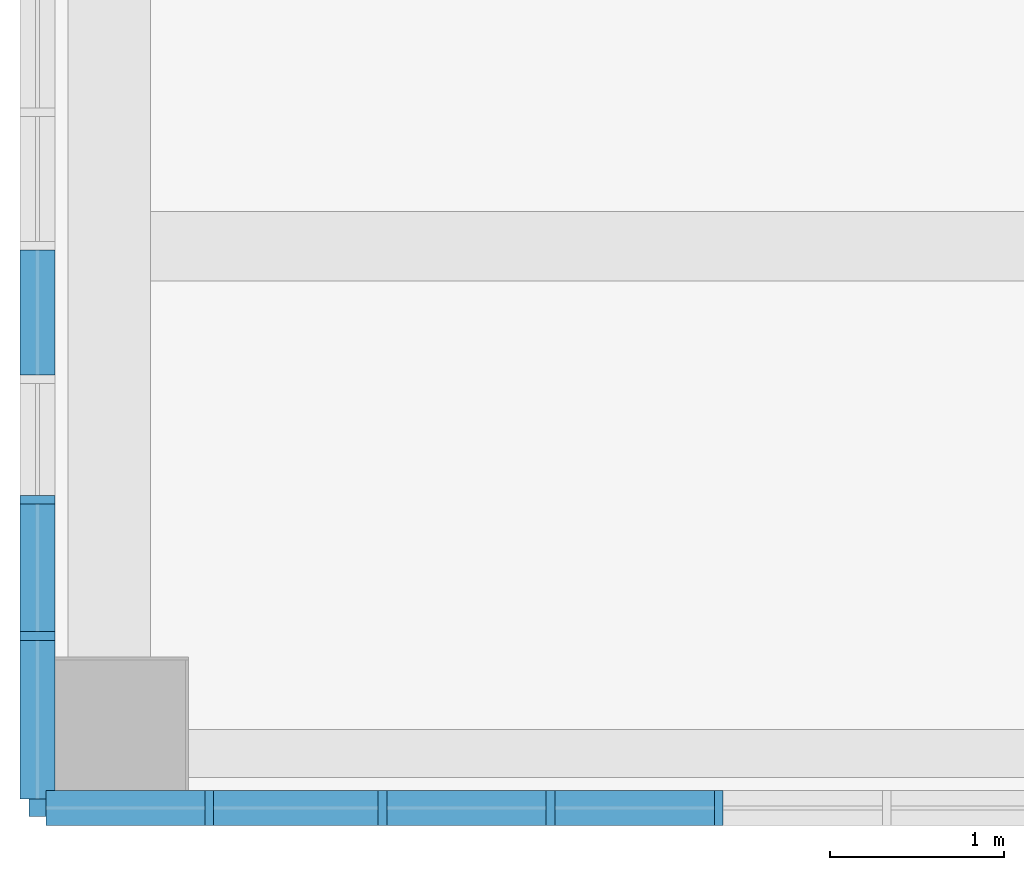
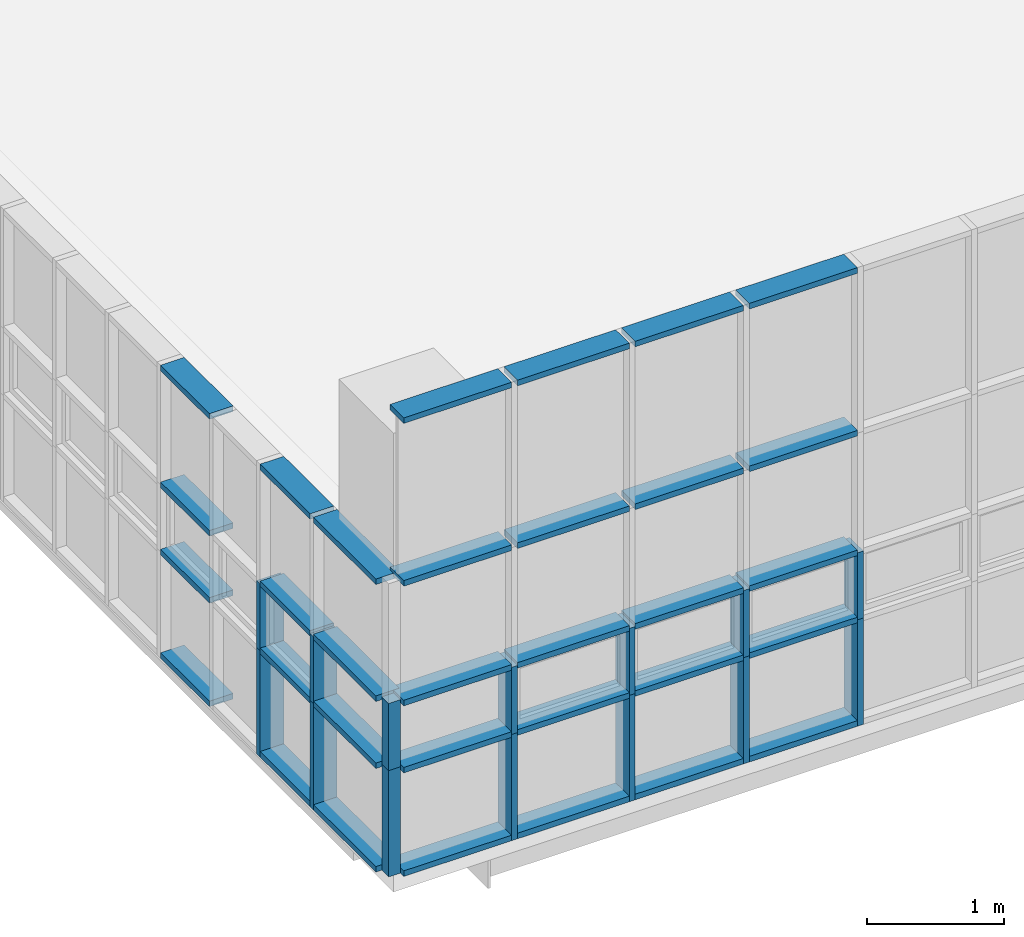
# One storey, part 11 of 76: 46 members, 2 elements without a shape of their own.
"""IFC2X3 building model written with IfcOpenShell, lengths in millimetres."""

from ifc_helpers import new_model, entity, si_unit, converted_unit, derived_unit, direction, frame, origin, origin_2d_with_axis, place, context, subcontext, project, spatial, rectangle, extrude, source, transform, mapped, material, type_object, type_shapes, element, aggregate, save


model = new_model("IFC2X3")

# Units and contexts
model_context = context("Model", 3, precision=0.01, world=origin(), true_north=direction((6.123031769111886e-17, 1.0)))
body_context = subcontext(model_context, "Body", "Model", "MODEL_VIEW")
ifc_project = project(units=[si_unit("LENGTHUNIT", "METRE", prefix="MILLI"), si_unit("AREAUNIT", "SQUARE_METRE"), si_unit("VOLUMEUNIT", "CUBIC_METRE"), converted_unit("PLANEANGLEUNIT", "DEGREE", entity("IfcRatioMeasure", 0.017453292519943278), si_unit("PLANEANGLEUNIT", "RADIAN"), dimensions=[0, 0, 0, 0, 0, 0, 0]), si_unit("MASSUNIT", "GRAM", prefix="KILO"), derived_unit("MASSDENSITYUNIT", [(si_unit("MASSUNIT", "GRAM", prefix="KILO"), 1), (si_unit("LENGTHUNIT", "METRE"), -3)]), derived_unit("MOMENTOFINERTIAUNIT", [(si_unit("LENGTHUNIT", "METRE"), 4)]), si_unit("TIMEUNIT", "SECOND"), si_unit("FREQUENCYUNIT", "HERTZ"), si_unit("THERMODYNAMICTEMPERATUREUNIT", "DEGREE_CELSIUS"), derived_unit("THERMALTRANSMITTANCEUNIT", [(si_unit("MASSUNIT", "GRAM", prefix="KILO"), 1), (si_unit("THERMODYNAMICTEMPERATUREUNIT", "KELVIN"), -1), (si_unit("TIMEUNIT", "SECOND"), -3)]), derived_unit("VOLUMETRICFLOWRATEUNIT", [(si_unit("LENGTHUNIT", "METRE"), 3), (si_unit("TIMEUNIT", "SECOND"), -1)]), derived_unit("MASSFLOWRATEUNIT", [(si_unit("MASSUNIT", "GRAM", prefix="KILO"), 1), (si_unit("TIMEUNIT", "SECOND"), -1)]), derived_unit("ROTATIONALFREQUENCYUNIT", [(si_unit("TIMEUNIT", "SECOND"), -1)]), si_unit("ELECTRICCURRENTUNIT", "AMPERE"), si_unit("ELECTRICVOLTAGEUNIT", "VOLT"), si_unit("POWERUNIT", "WATT"), si_unit("FORCEUNIT", "NEWTON", prefix="KILO"), si_unit("ILLUMINANCEUNIT", "LUX"), si_unit("LUMINOUSFLUXUNIT", "LUMEN"), si_unit("LUMINOUSINTENSITYUNIT", "CANDELA"), derived_unit("USERDEFINED", [(si_unit("MASSUNIT", "GRAM", prefix="KILO"), -1), (si_unit("LENGTHUNIT", "METRE"), -2), (si_unit("TIMEUNIT", "SECOND"), 3), (si_unit("LUMINOUSFLUXUNIT", "LUMEN"), 1)]), derived_unit("SOUNDPOWERUNIT", [(si_unit("MASSUNIT", "GRAM", prefix="KILO"), 1), (si_unit("LENGTHUNIT", "METRE"), 2), (si_unit("TIMEUNIT", "SECOND"), -3)]), derived_unit("SOUNDPRESSUREUNIT", [(si_unit("MASSUNIT", "GRAM", prefix="KILO"), 1), (si_unit("LENGTHUNIT", "METRE"), -1), (si_unit("TIMEUNIT", "SECOND"), -2)]), derived_unit("LINEARVELOCITYUNIT", [(si_unit("LENGTHUNIT", "METRE"), 1), (si_unit("TIMEUNIT", "SECOND"), -1)]), si_unit("PRESSUREUNIT", "PASCAL"), derived_unit("USERDEFINED", [(si_unit("LENGTHUNIT", "METRE"), -2), (si_unit("MASSUNIT", "GRAM", prefix="KILO"), 1), (si_unit("TIMEUNIT", "SECOND"), -2)]), derived_unit("LINEARFORCEUNIT", [(si_unit("MASSUNIT", "GRAM", prefix="KILO"), 1), (si_unit("LENGTHUNIT", "METRE"), 1), (si_unit("TIMEUNIT", "SECOND"), -2), (si_unit("LENGTHUNIT", "METRE"), -1)]), derived_unit("PLANARFORCEUNIT", [(si_unit("MASSUNIT", "GRAM", prefix="KILO"), 1), (si_unit("LENGTHUNIT", "METRE"), 1), (si_unit("TIMEUNIT", "SECOND"), -2), (si_unit("LENGTHUNIT", "METRE"), -2)])], contexts=[model_context])

# Site, building, storey
site_placement = place(None, frame((-14167.972527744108, -657.2125860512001, 0.0)))
site = spatial("IfcSite", under=ifc_project, at=site_placement, Name="Default", CompositionType="ELEMENT")
building_placement = place(site_placement, origin())
building = spatial("IfcBuilding", under=site, at=building_placement, Name="Sample Building", CompositionType="ELEMENT")
storey_placement = place(building_placement, frame((0.0, 0.0, 9300.0)))
storey = spatial("IfcBuildingStorey", under=building, at=storey_placement, Name="지상 3층", CompositionType="ELEMENT", Elevation=9300.000000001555)

# Curtain wall, members
curtain_wall_type = type_object("IfcCurtainWallType", Name="커튼월:CW112-스테인리스 스틸 커튼월", PredefinedType="NOTDEFINED")
curtain_wall_1_placement = place(storey_placement, frame((0.0, 0.0, -9300.0)))
curtain_wall_1 = element("IfcCurtainWall", 1, at=curtain_wall_1_placement, inside=storey, type_object=curtain_wall_type, Name="커튼월:CW112-스테인리스 스틸 커튼월", ObjectType="커튼월:CW112-스테인리스 스틸 커튼월")
ifc_material = material(Name="<Unnamed>")
member_type_1 = type_object("IfcMemberType", Name="직사각형 멀리언:CW200-직사각형 멀리언 50x200mm", PredefinedType="MULLION", material=ifc_material)
shared_shape_1 = source(origin(), body_context, "Body", "SweptSolid", [
    extrude(rectangle(XDim=200.0, YDim=50.0, at=origin_2d_with_axis()), frame((0.0, 0.0, -600.0), z_axis=(0.0, 0.0, 1.0), x_axis=(0.0, -1.0, 0.0)), (0.0, 0.0, 1.0), 600.0),
])
type_shapes(member_type_1, [shared_shape_1])
member_1_placement = place(curtain_wall_1_placement, frame((14018.587904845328, 2277.817707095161, 10330.0), z_axis=(0.0, 0.0, -1.0), x_axis=(0.0, -1.0, 0.0)))
member_1 = element("IfcMember", 2, at=member_1_placement, type_object=member_type_1, material=ifc_material, Name="직사각형 멀리언:CW200-직사각형 멀리언 50x200mm", ObjectType="직사각형 멀리언:CW200-직사각형 멀리언 50x200mm", context=body_context, shape_type="MappedRepresentation", body=[
    mapped(shared_shape_1, transform((0.0, 0.0, 0.0), scale=1.0)),
])
member_2_placement = place(curtain_wall_1_placement, frame((14018.587904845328, 1494.8177070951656, 10330.0), z_axis=(0.0, 0.0, -1.0), x_axis=(0.0, -1.0, 0.0)))
member_2 = element("IfcMember", 3, at=member_2_placement, type_object=member_type_1, material=ifc_material, Name="직사각형 멀리언:CW200-직사각형 멀리언 50x200mm", ObjectType="직사각형 멀리언:CW200-직사각형 멀리언 50x200mm", context=body_context, shape_type="MappedRepresentation", body=[
    mapped(shared_shape_1, transform((0.0, 0.0, 0.0), scale=1.0)),
])

curtain_wall_2_placement = place(storey_placement, frame((0.0, 0.0, -9300.0)))
curtain_wall_2 = element("IfcCurtainWall", 4, at=curtain_wall_2_placement, inside=storey, type_object=curtain_wall_type, Name="커튼월:CW112-스테인리스 스틸 커튼월", ObjectType="커튼월:CW112-스테인리스 스틸 커튼월")
member_3_placement = place(curtain_wall_2_placement, frame((15005.156070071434, 507.21229514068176, 10330.0), z_axis=(0.0, 0.0, -1.0), x_axis=(1.0, 0.0, 0.0)))
member_3 = element("IfcMember", 5, at=member_3_placement, type_object=member_type_1, material=ifc_material, Name="직사각형 멀리언:CW200-직사각형 멀리언 50x200mm", ObjectType="직사각형 멀리언:CW200-직사각형 멀리언 50x200mm", context=body_context, shape_type="MappedRepresentation", body=[
    mapped(shared_shape_1, transform((0.0, 0.0, 0.0), scale=1.0)),
])
member_4_placement = place(curtain_wall_2_placement, frame((16000.156070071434, 507.2122951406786, 10330.0), z_axis=(0.0, 0.0, -1.0), x_axis=(1.0, 0.0, 0.0)))
member_4 = element("IfcMember", 6, at=member_4_placement, type_object=member_type_1, material=ifc_material, Name="직사각형 멀리언:CW200-직사각형 멀리언 50x200mm", ObjectType="직사각형 멀리언:CW200-직사각형 멀리언 50x200mm", context=body_context, shape_type="MappedRepresentation", body=[
    mapped(shared_shape_1, transform((0.0, 0.0, 0.0), scale=1.0)),
])
member_5_placement = place(curtain_wall_2_placement, frame((16965.156070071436, 507.21229514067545, 10330.0), z_axis=(0.0, 0.0, -1.0), x_axis=(1.0, 0.0, 0.0)))
member_5 = element("IfcMember", 7, at=member_5_placement, type_object=member_type_1, material=ifc_material, Name="직사각형 멀리언:CW200-직사각형 멀리언 50x200mm", ObjectType="직사각형 멀리언:CW200-직사각형 멀리언 50x200mm", context=body_context, shape_type="MappedRepresentation", body=[
    mapped(shared_shape_1, transform((0.0, 0.0, 0.0), scale=1.0)),
])
member_6_placement = place(curtain_wall_2_placement, frame((17930.156070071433, 507.2122951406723, 10330.0), z_axis=(0.0, 0.0, -1.0), x_axis=(1.0, 0.0, 0.0)))
member_6 = element("IfcMember", 8, at=member_6_placement, type_object=member_type_1, material=ifc_material, Name="직사각형 멀리언:CW200-직사각형 멀리언 50x200mm", ObjectType="직사각형 멀리언:CW200-직사각형 멀리언 50x200mm", context=body_context, shape_type="MappedRepresentation", body=[
    mapped(shared_shape_1, transform((0.0, 0.0, 0.0), scale=1.0)),
])

# Member
member_type_2 = type_object("IfcMemberType", Name="직사각형 멀리언:CW200-직사각형 멀리언 50x200mm", PredefinedType="MULLION", material=ifc_material)
shared_shape_2 = source(origin(), body_context, "Body", "SweptSolid", [
    extrude(rectangle(XDim=200.0, YDim=50.0, at=origin_2d_with_axis()), frame((-25.0, 0.0, -912.5000000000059), z_axis=(0.0, 0.0, 1.0), x_axis=(0.0, -1.0, 0.0)), (0.0, 0.0, 1.0), 912.5000000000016),
])
type_shapes(member_type_2, [shared_shape_2])
member_7_placement = place(curtain_wall_1_placement, frame((14018.587904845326, 557.4731922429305, 12000.0), z_axis=(0.0, -1.0, 0.0), x_axis=(0.0, 0.0, 1.0)))
member_7 = element("IfcMember", 9, at=member_7_placement, type_object=member_type_2, material=ifc_material, Name="직사각형 멀리언:CW200-직사각형 멀리언 50x200mm", ObjectType="직사각형 멀리언:CW200-직사각형 멀리언 50x200mm", context=body_context, shape_type="MappedRepresentation", body=[
    mapped(shared_shape_2, transform((0.0, 0.0, 0.0), scale=1.0)),
])

member_type_3 = type_object("IfcMemberType", Name="직사각형 멀리언:CW200-직사각형 멀리언 50x200mm", PredefinedType="MULLION", material=ifc_material)
shared_shape_3 = source(origin(), body_context, "Body", "SweptSolid", [
    extrude(rectangle(XDim=200.0, YDim=50.0, at=origin_2d_with_axis()), frame((-25.0, 0.0, -912.5000000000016), z_axis=(0.0, 0.0, 1.0), x_axis=(0.0, -1.0, 0.0)), (0.0, 0.0, 1.0), 912.5000000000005),
])
type_shapes(member_type_3, [shared_shape_3])
member_8_placement = place(curtain_wall_1_placement, frame((14018.587904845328, 1469.8177070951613, 9380.0), z_axis=(0.0, 1.0, 0.0), x_axis=(0.0, 0.0, -1.0)))
member_8 = element("IfcMember", 10, at=member_8_placement, type_object=member_type_3, material=ifc_material, Name="직사각형 멀리언:CW200-직사각형 멀리언 50x200mm", ObjectType="직사각형 멀리언:CW200-직사각형 멀리언 50x200mm", context=body_context, shape_type="MappedRepresentation", body=[
    mapped(shared_shape_3, transform((0.0, 0.0, 0.0), scale=1.0)),
])

member_type_4 = type_object("IfcMemberType", Name="직사각형 멀리언:CW200-직사각형 멀리언 50x200mm", PredefinedType="MULLION", material=ifc_material)
shared_shape_4 = source(origin(), body_context, "Body", "SweptSolid", [
    extrude(rectangle(XDim=200.0, YDim=50.0, at=origin_2d_with_axis()), frame((0.0, 0.0, -912.4999999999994), z_axis=(0.0, 0.0, 1.0), x_axis=(0.0, -1.0, 0.0)), (0.0, 0.0, 1.0), 912.5000000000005),
])
type_shapes(member_type_4, [shared_shape_4])
member_9_placement = place(curtain_wall_1_placement, frame((14018.587904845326, 557.4731922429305, 10330.0), z_axis=(0.0, -1.0, 0.0), x_axis=(0.0, 0.0, 1.0)))
member_9 = element("IfcMember", 11, at=member_9_placement, type_object=member_type_4, material=ifc_material, Name="직사각형 멀리언:CW200-직사각형 멀리언 50x200mm", ObjectType="직사각형 멀리언:CW200-직사각형 멀리언 50x200mm", context=body_context, shape_type="MappedRepresentation", body=[
    mapped(shared_shape_4, transform((0.0, 0.0, 0.0), scale=1.0)),
])

member_10_placement = place(curtain_wall_1_placement, frame((14018.587904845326, 557.4731922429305, 10930.0), z_axis=(0.0, -1.0, 0.0), x_axis=(0.0, 0.0, 1.0)))
member_10 = element("IfcMember", 12, at=member_10_placement, type_object=member_type_4, material=ifc_material, Name="직사각형 멀리언:CW200-직사각형 멀리언 50x200mm", ObjectType="직사각형 멀리언:CW200-직사각형 멀리언 50x200mm", context=body_context, shape_type="MappedRepresentation", body=[
    mapped(shared_shape_4, transform((0.0, 0.0, 0.0), scale=1.0)),
])

member_type_5 = type_object("IfcMemberType", Name="직사각형 멀리언:CW200-직사각형 멀리언 100 x 100mm", PredefinedType="MULLION", material=ifc_material)
shared_shape_5 = source(origin(), body_context, "Body", "SweptSolid", [
    extrude(rectangle(XDim=100.0, YDim=100.0, at=origin_2d_with_axis()), frame((-50.0, 0.0, -950.0), z_axis=(0.0, 0.0, 1.0), x_axis=(0.0, -1.0, 0.0)), (0.0, 0.0, 1.0), 950.0000000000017),
])
type_shapes(member_type_5, [shared_shape_5])
member_11_placement = place(curtain_wall_1_placement, frame((14018.587904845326, 457.4731922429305, 9380.0), z_axis=(0.0, 0.0, -1.0), x_axis=(0.0, -1.0, 0.0)))
member_11 = element("IfcMember", 13, at=member_11_placement, type_object=member_type_5, material=ifc_material, Name="직사각형 멀리언:CW200-직사각형 멀리언 100 x 100mm", ObjectType="직사각형 멀리언:CW200-직사각형 멀리언 100 x 100mm", context=body_context, shape_type="MappedRepresentation", body=[
    mapped(shared_shape_5, transform((0.0, 0.0, 0.0), scale=1.0)),
])

member_type_6 = type_object("IfcMemberType", Name="직사각형 멀리언:CW200-직사각형 멀리언 100 x 100mm", PredefinedType="MULLION", material=ifc_material)
shared_shape_6 = source(origin(), body_context, "Body", "SweptSolid", [
    extrude(rectangle(XDim=100.0, YDim=100.0, at=origin_2d_with_axis()), frame((-50.0, 0.0, -600.0), z_axis=(0.0, 0.0, 1.0), x_axis=(0.0, -1.0, 0.0)), (0.0, 0.0, 1.0), 600.0000000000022),
])
type_shapes(member_type_6, [shared_shape_6])
member_12_placement = place(curtain_wall_1_placement, frame((14018.587904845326, 457.4731922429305, 10330.0), z_axis=(0.0, 0.0, -1.0), x_axis=(0.0, -1.0, 0.0)))
member_12 = element("IfcMember", 14, at=member_12_placement, type_object=member_type_6, material=ifc_material, Name="직사각형 멀리언:CW200-직사각형 멀리언 100 x 100mm", ObjectType="직사각형 멀리언:CW200-직사각형 멀리언 100 x 100mm", context=body_context, shape_type="MappedRepresentation", body=[
    mapped(shared_shape_6, transform((0.0, 0.0, 0.0), scale=1.0)),
])

member_type_7 = type_object("IfcMemberType", Name="직사각형 멀리언:CW200-직사각형 멀리언 50x200mm", PredefinedType="MULLION", material=ifc_material)
shared_shape_7 = source(origin(), body_context, "Body", "SweptSolid", [
    extrude(rectangle(XDim=200.0, YDim=50.0, at=origin_2d_with_axis()), frame((0.0, 0.0, -950.0), z_axis=(0.0, 0.0, 1.0), x_axis=(0.0, -1.0, 0.0)), (0.0, 0.0, 1.0), 949.9999999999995),
])
type_shapes(member_type_7, [shared_shape_7])
member_13_placement = place(curtain_wall_1_placement, frame((14018.587904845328, 2277.817707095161, 9380.0), z_axis=(0.0, 0.0, -1.0), x_axis=(0.0, -1.0, 0.0)))
member_13 = element("IfcMember", 15, at=member_13_placement, type_object=member_type_7, material=ifc_material, Name="직사각형 멀리언:CW200-직사각형 멀리언 50x200mm", ObjectType="직사각형 멀리언:CW200-직사각형 멀리언 50x200mm", context=body_context, shape_type="MappedRepresentation", body=[
    mapped(shared_shape_7, transform((0.0, 0.0, 0.0), scale=1.0)),
])

member_14_placement = place(curtain_wall_1_placement, frame((14018.587904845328, 1494.8177070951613, 9380.0), z_axis=(0.0, 0.0, -1.0), x_axis=(0.0, -1.0, 0.0)))
member_14 = element("IfcMember", 16, at=member_14_placement, type_object=member_type_7, material=ifc_material, Name="직사각형 멀리언:CW200-직사각형 멀리언 50x200mm", ObjectType="직사각형 멀리언:CW200-직사각형 멀리언 50x200mm", context=body_context, shape_type="MappedRepresentation", body=[
    mapped(shared_shape_7, transform((0.0, 0.0, 0.0), scale=1.0)),
])

member_15_placement = place(curtain_wall_2_placement, frame((15005.156070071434, 507.21229514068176, 9380.0), z_axis=(0.0, 0.0, -1.0), x_axis=(1.0, 0.0, 0.0)))
member_15 = element("IfcMember", 17, at=member_15_placement, type_object=member_type_7, material=ifc_material, Name="직사각형 멀리언:CW200-직사각형 멀리언 50x200mm", ObjectType="직사각형 멀리언:CW200-직사각형 멀리언 50x200mm", context=body_context, shape_type="MappedRepresentation", body=[
    mapped(shared_shape_7, transform((0.0, 0.0, 0.0), scale=1.0)),
])

member_16_placement = place(curtain_wall_2_placement, frame((16000.156070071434, 507.2122951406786, 9380.0), z_axis=(0.0, 0.0, -1.0), x_axis=(1.0, 0.0, 0.0)))
member_16 = element("IfcMember", 18, at=member_16_placement, type_object=member_type_7, material=ifc_material, Name="직사각형 멀리언:CW200-직사각형 멀리언 50x200mm", ObjectType="직사각형 멀리언:CW200-직사각형 멀리언 50x200mm", context=body_context, shape_type="MappedRepresentation", body=[
    mapped(shared_shape_7, transform((0.0, 0.0, 0.0), scale=1.0)),
])

member_17_placement = place(curtain_wall_2_placement, frame((16965.156070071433, 507.21229514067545, 9380.0), z_axis=(0.0, 0.0, -1.0), x_axis=(1.0, 0.0, 0.0)))
member_17 = element("IfcMember", 19, at=member_17_placement, type_object=member_type_7, material=ifc_material, Name="직사각형 멀리언:CW200-직사각형 멀리언 50x200mm", ObjectType="직사각형 멀리언:CW200-직사각형 멀리언 50x200mm", context=body_context, shape_type="MappedRepresentation", body=[
    mapped(shared_shape_7, transform((0.0, 0.0, 0.0), scale=1.0)),
])

member_18_placement = place(curtain_wall_2_placement, frame((17930.156070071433, 507.2122951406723, 9380.0), z_axis=(0.0, 0.0, -1.0), x_axis=(1.0, 0.0, 0.0)))
member_18 = element("IfcMember", 20, at=member_18_placement, type_object=member_type_7, material=ifc_material, Name="직사각형 멀리언:CW200-직사각형 멀리언 50x200mm", ObjectType="직사각형 멀리언:CW200-직사각형 멀리언 50x200mm", context=body_context, shape_type="MappedRepresentation", body=[
    mapped(shared_shape_7, transform((0.0, 0.0, 0.0), scale=1.0)),
])

member_type_8 = type_object("IfcMemberType", Name="직사각형 멀리언:CW200-직사각형 멀리언 50x200mm", PredefinedType="MULLION", material=ifc_material)
shared_shape_8 = source(origin(), body_context, "Body", "SweptSolid", [
    extrude(rectangle(XDim=200.0, YDim=50.0, at=origin_2d_with_axis()), frame((-25.0, 0.0, -716.0), z_axis=(0.0, 0.0, 1.0), x_axis=(0.0, -1.0, 0.0)), (0.0, 0.0, 1.0), 715.9999999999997),
])
type_shapes(member_type_8, [shared_shape_8])
member_19_placement = place(curtain_wall_1_placement, frame((14018.587904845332, 3710.8177070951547, 9380.0), z_axis=(0.0, 1.0, 0.0), x_axis=(0.0, 0.0, -1.0)))
member_19 = element("IfcMember", 21, at=member_19_placement, type_object=member_type_8, material=ifc_material, Name="직사각형 멀리언:CW200-직사각형 멀리언 50x200mm", ObjectType="직사각형 멀리언:CW200-직사각형 멀리언 50x200mm", context=body_context, shape_type="MappedRepresentation", body=[
    mapped(shared_shape_8, transform((0.0, 0.0, 0.0), scale=1.0)),
])

member_type_9 = type_object("IfcMemberType", Name="직사각형 멀리언:CW200-직사각형 멀리언 50x200mm", PredefinedType="MULLION", material=ifc_material)
shared_shape_9 = source(origin(), body_context, "Body", "SweptSolid", [
    extrude(rectangle(XDim=200.0, YDim=50.0, at=origin_2d_with_axis()), frame((0.0, 0.0, -716.0), z_axis=(0.0, 0.0, 1.0), x_axis=(0.0, -1.0, 0.0)), (0.0, 0.0, 1.0), 715.9999999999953),
])
type_shapes(member_type_9, [shared_shape_9])
member_20_placement = place(curtain_wall_1_placement, frame((14018.587904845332, 2994.817707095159, 10330.0), z_axis=(0.0, -1.0, 0.0), x_axis=(0.0, 0.0, 1.0)))
member_20 = element("IfcMember", 22, at=member_20_placement, type_object=member_type_9, material=ifc_material, Name="직사각형 멀리언:CW200-직사각형 멀리언 50x200mm", ObjectType="직사각형 멀리언:CW200-직사각형 멀리언 50x200mm", context=body_context, shape_type="MappedRepresentation", body=[
    mapped(shared_shape_9, transform((0.0, 0.0, 0.0), scale=1.0)),
])

member_21_placement = place(curtain_wall_1_placement, frame((14018.587904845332, 2994.817707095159, 10930.0), z_axis=(0.0, -1.0, 0.0), x_axis=(0.0, 0.0, 1.0)))
member_21 = element("IfcMember", 23, at=member_21_placement, type_object=member_type_9, material=ifc_material, Name="직사각형 멀리언:CW200-직사각형 멀리언 50x200mm", ObjectType="직사각형 멀리언:CW200-직사각형 멀리언 50x200mm", context=body_context, shape_type="MappedRepresentation", body=[
    mapped(shared_shape_9, transform((0.0, 0.0, 0.0), scale=1.0)),
])

member_type_10 = type_object("IfcMemberType", Name="직사각형 멀리언:CW200-직사각형 멀리언 50x200mm", PredefinedType="MULLION", material=ifc_material)
shared_shape_10 = source(origin(), body_context, "Body", "SweptSolid", [
    extrude(rectangle(XDim=200.0, YDim=50.0, at=origin_2d_with_axis()), frame((-25.0, 0.0, -716.0), z_axis=(0.0, 0.0, 1.0), x_axis=(0.0, -1.0, 0.0)), (0.0, 0.0, 1.0), 715.9999999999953),
])
type_shapes(member_type_10, [shared_shape_10])
member_22_placement = place(curtain_wall_1_placement, frame((14018.587904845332, 2994.817707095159, 12000.0), z_axis=(0.0, -1.0, 0.0), x_axis=(0.0, 0.0, 1.0)))
member_22 = element("IfcMember", 24, at=member_22_placement, type_object=member_type_10, material=ifc_material, Name="직사각형 멀리언:CW200-직사각형 멀리언 50x200mm", ObjectType="직사각형 멀리언:CW200-직사각형 멀리언 50x200mm", context=body_context, shape_type="MappedRepresentation", body=[
    mapped(shared_shape_10, transform((0.0, 0.0, 0.0), scale=1.0)),
])

member_type_11 = type_object("IfcMemberType", Name="직사각형 멀리언:CW200-직사각형 멀리언 50x200mm", PredefinedType="MULLION", material=ifc_material)
shared_shape_11 = source(origin(), body_context, "Body", "SweptSolid", [
    extrude(rectangle(XDim=200.0, YDim=50.0, at=origin_2d_with_axis()), frame((-25.0, 0.0, -733.0), z_axis=(0.0, 0.0, 1.0), x_axis=(0.0, -1.0, 0.0)), (0.0, 0.0, 1.0), 732.9999999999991),
])
type_shapes(member_type_11, [shared_shape_11])
member_23_placement = place(curtain_wall_1_placement, frame((14018.587904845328, 2252.817707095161, 9380.0), z_axis=(0.0, 1.0, 0.0), x_axis=(0.0, 0.0, -1.0)))
member_23 = element("IfcMember", 25, at=member_23_placement, type_object=member_type_11, material=ifc_material, Name="직사각형 멀리언:CW200-직사각형 멀리언 50x200mm", ObjectType="직사각형 멀리언:CW200-직사각형 멀리언 50x200mm", context=body_context, shape_type="MappedRepresentation", body=[
    mapped(shared_shape_11, transform((0.0, 0.0, 0.0), scale=1.0)),
])

member_type_12 = type_object("IfcMemberType", Name="직사각형 멀리언:CW200-직사각형 멀리언 50x200mm", PredefinedType="MULLION", material=ifc_material)
shared_shape_12 = source(origin(), body_context, "Body", "SweptSolid", [
    extrude(rectangle(XDim=200.0, YDim=50.0, at=origin_2d_with_axis()), frame((0.0, 0.0, -733.0), z_axis=(0.0, 0.0, 1.0), x_axis=(0.0, -1.0, 0.0)), (0.0, 0.0, 1.0), 732.9999999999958),
])
type_shapes(member_type_12, [shared_shape_12])
member_24_placement = place(curtain_wall_1_placement, frame((14018.587904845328, 1519.8177070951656, 10330.0), z_axis=(0.0, -1.0, 0.0), x_axis=(0.0, 0.0, 1.0)))
member_24 = element("IfcMember", 26, at=member_24_placement, type_object=member_type_12, material=ifc_material, Name="직사각형 멀리언:CW200-직사각형 멀리언 50x200mm", ObjectType="직사각형 멀리언:CW200-직사각형 멀리언 50x200mm", context=body_context, shape_type="MappedRepresentation", body=[
    mapped(shared_shape_12, transform((0.0, 0.0, 0.0), scale=1.0)),
])

member_25_placement = place(curtain_wall_1_placement, frame((14018.587904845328, 1519.8177070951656, 10930.0), z_axis=(0.0, -1.0, 0.0), x_axis=(0.0, 0.0, 1.0)))
member_25 = element("IfcMember", 27, at=member_25_placement, type_object=member_type_12, material=ifc_material, Name="직사각형 멀리언:CW200-직사각형 멀리언 50x200mm", ObjectType="직사각형 멀리언:CW200-직사각형 멀리언 50x200mm", context=body_context, shape_type="MappedRepresentation", body=[
    mapped(shared_shape_12, transform((0.0, 0.0, 0.0), scale=1.0)),
])

member_type_13 = type_object("IfcMemberType", Name="직사각형 멀리언:CW200-직사각형 멀리언 50x200mm", PredefinedType="MULLION", material=ifc_material)
shared_shape_13 = source(origin(), body_context, "Body", "SweptSolid", [
    extrude(rectangle(XDim=200.0, YDim=50.0, at=origin_2d_with_axis()), frame((-25.0, 0.0, -733.0), z_axis=(0.0, 0.0, 1.0), x_axis=(0.0, -1.0, 0.0)), (0.0, 0.0, 1.0), 733.0000000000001),
])
type_shapes(member_type_13, [shared_shape_13])
member_26_placement = place(curtain_wall_1_placement, frame((14018.587904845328, 1519.8177070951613, 12000.0), z_axis=(0.0, -1.0, 0.0), x_axis=(0.0, 0.0, 1.0)))
member_26 = element("IfcMember", 28, at=member_26_placement, type_object=member_type_13, material=ifc_material, Name="직사각형 멀리언:CW200-직사각형 멀리언 50x200mm", ObjectType="직사각형 멀리언:CW200-직사각형 멀리언 50x200mm", context=body_context, shape_type="MappedRepresentation", body=[
    mapped(shared_shape_13, transform((0.0, 0.0, 0.0), scale=1.0)),
])

aggregate(curtain_wall_1, [member_7, member_11, member_12, member_19, member_20, member_21, member_22, member_23, member_24, member_25, member_13, member_1, member_26, member_8, member_9, member_10, member_14, member_2])

member_type_14 = type_object("IfcMemberType", Name="직사각형 멀리언:CW200-직사각형 멀리언 50x200mm", PredefinedType="MULLION", material=ifc_material)
shared_shape_14 = source(origin(), body_context, "Body", "SweptSolid", [
    extrude(rectangle(XDim=200.0, YDim=50.0, at=origin_2d_with_axis()), frame((-25.0, 0.0, -912.1922411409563), z_axis=(0.0, 0.0, 1.0), x_axis=(0.0, -1.0, 0.0)), (0.0, 0.0, 1.0), 912.1922411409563),
])
type_shapes(member_type_14, [shared_shape_14])
member_27_placement = place(curtain_wall_2_placement, frame((14067.963828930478, 507.2122951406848, 9380.0), z_axis=(-1.0, 0.0, 0.0), x_axis=(0.0, 0.0, -1.0)))
member_27 = element("IfcMember", 29, at=member_27_placement, type_object=member_type_14, material=ifc_material, Name="직사각형 멀리언:CW200-직사각형 멀리언 50x200mm", ObjectType="직사각형 멀리언:CW200-직사각형 멀리언 50x200mm", context=body_context, shape_type="MappedRepresentation", body=[
    mapped(shared_shape_14, transform((0.0, 0.0, 0.0), scale=1.0)),
])

member_type_15 = type_object("IfcMemberType", Name="직사각형 멀리언:CW200-직사각형 멀리언 50x200mm", PredefinedType="MULLION", material=ifc_material)
shared_shape_15 = source(origin(), body_context, "Body", "SweptSolid", [
    extrude(rectangle(XDim=200.0, YDim=50.0, at=origin_2d_with_axis()), frame((-25.0, 0.0, -912.1922411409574), z_axis=(0.0, 0.0, 1.0), x_axis=(0.0, -1.0, 0.0)), (0.0, 0.0, 1.0), 912.1922411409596),
])
type_shapes(member_type_15, [shared_shape_15])
member_28_placement = place(curtain_wall_2_placement, frame((14980.156070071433, 507.2122951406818, 13480.0), z_axis=(1.0, 0.0, 0.0), x_axis=(0.0, 0.0, 1.0)))
member_28 = element("IfcMember", 30, at=member_28_placement, type_object=member_type_15, material=ifc_material, Name="직사각형 멀리언:CW200-직사각형 멀리언 50x200mm", ObjectType="직사각형 멀리언:CW200-직사각형 멀리언 50x200mm", context=body_context, shape_type="MappedRepresentation", body=[
    mapped(shared_shape_15, transform((0.0, 0.0, 0.0), scale=1.0)),
])

member_type_16 = type_object("IfcMemberType", Name="직사각형 멀리언:CW200-직사각형 멀리언 50x200mm", PredefinedType="MULLION", material=ifc_material)
shared_shape_16 = source(origin(), body_context, "Body", "SweptSolid", [
    extrude(rectangle(XDim=200.0, YDim=50.0, at=origin_2d_with_axis()), frame((-25.0, 0.0, -945.0), z_axis=(0.0, 0.0, 1.0), x_axis=(0.0, -1.0, 0.0)), (0.0, 0.0, 1.0), 944.9999999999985),
])
type_shapes(member_type_16, [shared_shape_16])
member_29_placement = place(curtain_wall_2_placement, frame((15030.156070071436, 507.21229514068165, 9380.0), z_axis=(-1.0, 0.0, 0.0), x_axis=(0.0, 0.0, -1.0)))
member_29 = element("IfcMember", 31, at=member_29_placement, type_object=member_type_16, material=ifc_material, Name="직사각형 멀리언:CW200-직사각형 멀리언 50x200mm", ObjectType="직사각형 멀리언:CW200-직사각형 멀리언 50x200mm", context=body_context, shape_type="MappedRepresentation", body=[
    mapped(shared_shape_16, transform((0.0, 0.0, 0.0), scale=1.0)),
])

member_type_17 = type_object("IfcMemberType", Name="직사각형 멀리언:CW200-직사각형 멀리언 50x200mm", PredefinedType="MULLION", material=ifc_material)
shared_shape_17 = source(origin(), body_context, "Body", "SweptSolid", [
    extrude(rectangle(XDim=200.0, YDim=50.0, at=origin_2d_with_axis()), frame((0.0, 0.0, -912.1922411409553), z_axis=(0.0, 0.0, 1.0), x_axis=(0.0, -1.0, 0.0)), (0.0, 0.0, 1.0), 912.1922411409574),
])
type_shapes(member_type_17, [shared_shape_17])
member_30_placement = place(curtain_wall_2_placement, frame((14980.156070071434, 507.2122951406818, 10330.0), z_axis=(1.0, 0.0, 0.0), x_axis=(0.0, 0.0, 1.0)))
member_30 = element("IfcMember", 32, at=member_30_placement, type_object=member_type_17, material=ifc_material, Name="직사각형 멀리언:CW200-직사각형 멀리언 50x200mm", ObjectType="직사각형 멀리언:CW200-직사각형 멀리언 50x200mm", context=body_context, shape_type="MappedRepresentation", body=[
    mapped(shared_shape_17, transform((0.0, 0.0, 0.0), scale=1.0)),
])

member_31_placement = place(curtain_wall_2_placement, frame((14980.156070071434, 507.2122951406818, 10930.0), z_axis=(1.0, 0.0, 0.0), x_axis=(0.0, 0.0, 1.0)))
member_31 = element("IfcMember", 33, at=member_31_placement, type_object=member_type_17, material=ifc_material, Name="직사각형 멀리언:CW200-직사각형 멀리언 50x200mm", ObjectType="직사각형 멀리언:CW200-직사각형 멀리언 50x200mm", context=body_context, shape_type="MappedRepresentation", body=[
    mapped(shared_shape_17, transform((0.0, 0.0, 0.0), scale=1.0)),
])

member_32_placement = place(curtain_wall_2_placement, frame((14980.156070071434, 507.2122951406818, 12000.0), z_axis=(1.0, 0.0, 0.0), x_axis=(0.0, 0.0, 1.0)))
member_32 = element("IfcMember", 34, at=member_32_placement, type_object=member_type_17, material=ifc_material, Name="직사각형 멀리언:CW200-직사각형 멀리언 50x200mm", ObjectType="직사각형 멀리언:CW200-직사각형 멀리언 50x200mm", context=body_context, shape_type="MappedRepresentation", body=[
    mapped(shared_shape_17, transform((0.0, 0.0, 0.0), scale=1.0)),
])

member_type_18 = type_object("IfcMemberType", Name="직사각형 멀리언:CW200-직사각형 멀리언 50x200mm", PredefinedType="MULLION", material=ifc_material)
shared_shape_18 = source(origin(), body_context, "Body", "SweptSolid", [
    extrude(rectangle(XDim=200.0, YDim=50.0, at=origin_2d_with_axis()), frame((0.0, 0.0, -945.0), z_axis=(0.0, 0.0, 1.0), x_axis=(0.0, -1.0, 0.0)), (0.0, 0.0, 1.0), 944.9999999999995),
])
type_shapes(member_type_18, [shared_shape_18])
member_33_placement = place(curtain_wall_2_placement, frame((15975.156070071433, 507.21229514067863, 10330.0), z_axis=(1.0, 0.0, 0.0), x_axis=(0.0, 0.0, 1.0)))
member_33 = element("IfcMember", 35, at=member_33_placement, type_object=member_type_18, material=ifc_material, Name="직사각형 멀리언:CW200-직사각형 멀리언 50x200mm", ObjectType="직사각형 멀리언:CW200-직사각형 멀리언 50x200mm", context=body_context, shape_type="MappedRepresentation", body=[
    mapped(shared_shape_18, transform((0.0, 0.0, 0.0), scale=1.0)),
])

member_34_placement = place(curtain_wall_2_placement, frame((15975.156070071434, 507.21229514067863, 10930.0), z_axis=(1.0, 0.0, 0.0), x_axis=(0.0, 0.0, 1.0)))
member_34 = element("IfcMember", 36, at=member_34_placement, type_object=member_type_18, material=ifc_material, Name="직사각형 멀리언:CW200-직사각형 멀리언 50x200mm", ObjectType="직사각형 멀리언:CW200-직사각형 멀리언 50x200mm", context=body_context, shape_type="MappedRepresentation", body=[
    mapped(shared_shape_18, transform((0.0, 0.0, 0.0), scale=1.0)),
])

member_35_placement = place(curtain_wall_2_placement, frame((15975.156070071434, 507.21229514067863, 12000.0), z_axis=(1.0, 0.0, 0.0), x_axis=(0.0, 0.0, 1.0)))
member_35 = element("IfcMember", 37, at=member_35_placement, type_object=member_type_18, material=ifc_material, Name="직사각형 멀리언:CW200-직사각형 멀리언 50x200mm", ObjectType="직사각형 멀리언:CW200-직사각형 멀리언 50x200mm", context=body_context, shape_type="MappedRepresentation", body=[
    mapped(shared_shape_18, transform((0.0, 0.0, 0.0), scale=1.0)),
])

member_type_19 = type_object("IfcMemberType", Name="직사각형 멀리언:CW200-직사각형 멀리언 50x200mm", PredefinedType="MULLION", material=ifc_material)
shared_shape_19 = source(origin(), body_context, "Body", "SweptSolid", [
    extrude(rectangle(XDim=200.0, YDim=50.0, at=origin_2d_with_axis()), frame((-25.0, 0.0, -945.0), z_axis=(0.0, 0.0, 1.0), x_axis=(0.0, -1.0, 0.0)), (0.0, 0.0, 1.0), 945.000000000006),
])
type_shapes(member_type_19, [shared_shape_19])
member_36_placement = place(curtain_wall_2_placement, frame((15975.156070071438, 507.21229514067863, 13480.0), z_axis=(1.0, 0.0, 0.0), x_axis=(0.0, 0.0, 1.0)))
member_36 = element("IfcMember", 38, at=member_36_placement, type_object=member_type_19, material=ifc_material, Name="직사각형 멀리언:CW200-직사각형 멀리언 50x200mm", ObjectType="직사각형 멀리언:CW200-직사각형 멀리언 50x200mm", context=body_context, shape_type="MappedRepresentation", body=[
    mapped(shared_shape_19, transform((0.0, 0.0, 0.0), scale=1.0)),
])

member_type_20 = type_object("IfcMemberType", Name="직사각형 멀리언:CW200-직사각형 멀리언 50x200mm", PredefinedType="MULLION", material=ifc_material)
shared_shape_20 = source(origin(), body_context, "Body", "SweptSolid", [
    extrude(rectangle(XDim=200.0, YDim=50.0, at=origin_2d_with_axis()), frame((-25.0, 0.0, -915.0), z_axis=(0.0, 0.0, 1.0), x_axis=(0.0, -1.0, 0.0)), (0.0, 0.0, 1.0), 914.9999999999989),
])
type_shapes(member_type_20, [shared_shape_20])
member_37_placement = place(curtain_wall_2_placement, frame((16025.156070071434, 507.2122951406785, 9380.0), z_axis=(-1.0, 0.0, 0.0), x_axis=(0.0, 0.0, -1.0)))
member_37 = element("IfcMember", 39, at=member_37_placement, type_object=member_type_20, material=ifc_material, Name="직사각형 멀리언:CW200-직사각형 멀리언 50x200mm", ObjectType="직사각형 멀리언:CW200-직사각형 멀리언 50x200mm", context=body_context, shape_type="MappedRepresentation", body=[
    mapped(shared_shape_20, transform((0.0, 0.0, 0.0), scale=1.0)),
])

member_38_placement = place(curtain_wall_2_placement, frame((16990.156070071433, 507.2122951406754, 9380.0), z_axis=(-1.0, 0.0, 0.0), x_axis=(0.0, 0.0, -1.0)))
member_38 = element("IfcMember", 40, at=member_38_placement, type_object=member_type_20, material=ifc_material, Name="직사각형 멀리언:CW200-직사각형 멀리언 50x200mm", ObjectType="직사각형 멀리언:CW200-직사각형 멀리언 50x200mm", context=body_context, shape_type="MappedRepresentation", body=[
    mapped(shared_shape_20, transform((0.0, 0.0, 0.0), scale=1.0)),
])

member_type_21 = type_object("IfcMemberType", Name="직사각형 멀리언:CW200-직사각형 멀리언 50x200mm", PredefinedType="MULLION", material=ifc_material)
shared_shape_21 = source(origin(), body_context, "Body", "SweptSolid", [
    extrude(rectangle(XDim=200.0, YDim=50.0, at=origin_2d_with_axis()), frame((0.0, 0.0, -915.0), z_axis=(0.0, 0.0, 1.0), x_axis=(0.0, -1.0, 0.0)), (0.0, 0.0, 1.0), 915.000000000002),
])
type_shapes(member_type_21, [shared_shape_21])
member_39_placement = place(curtain_wall_2_placement, frame((16940.156070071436, 507.2122951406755, 10330.0), z_axis=(1.0, 0.0, 0.0), x_axis=(0.0, 0.0, 1.0)))
member_39 = element("IfcMember", 41, at=member_39_placement, type_object=member_type_21, material=ifc_material, Name="직사각형 멀리언:CW200-직사각형 멀리언 50x200mm", ObjectType="직사각형 멀리언:CW200-직사각형 멀리언 50x200mm", context=body_context, shape_type="MappedRepresentation", body=[
    mapped(shared_shape_21, transform((0.0, 0.0, 0.0), scale=1.0)),
])

member_40_placement = place(curtain_wall_2_placement, frame((16940.156070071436, 507.2122951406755, 10930.0), z_axis=(1.0, 0.0, 0.0), x_axis=(0.0, 0.0, 1.0)))
member_40 = element("IfcMember", 42, at=member_40_placement, type_object=member_type_21, material=ifc_material, Name="직사각형 멀리언:CW200-직사각형 멀리언 50x200mm", ObjectType="직사각형 멀리언:CW200-직사각형 멀리언 50x200mm", context=body_context, shape_type="MappedRepresentation", body=[
    mapped(shared_shape_21, transform((0.0, 0.0, 0.0), scale=1.0)),
])

member_41_placement = place(curtain_wall_2_placement, frame((16940.156070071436, 507.2122951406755, 12000.0), z_axis=(1.0, 0.0, 0.0), x_axis=(0.0, 0.0, 1.0)))
member_41 = element("IfcMember", 43, at=member_41_placement, type_object=member_type_21, material=ifc_material, Name="직사각형 멀리언:CW200-직사각형 멀리언 50x200mm", ObjectType="직사각형 멀리언:CW200-직사각형 멀리언 50x200mm", context=body_context, shape_type="MappedRepresentation", body=[
    mapped(shared_shape_21, transform((0.0, 0.0, 0.0), scale=1.0)),
])

member_42_placement = place(curtain_wall_2_placement, frame((17905.156070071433, 507.2122951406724, 10330.0), z_axis=(1.0, 0.0, 0.0), x_axis=(0.0, 0.0, 1.0)))
member_42 = element("IfcMember", 44, at=member_42_placement, type_object=member_type_21, material=ifc_material, Name="직사각형 멀리언:CW200-직사각형 멀리언 50x200mm", ObjectType="직사각형 멀리언:CW200-직사각형 멀리언 50x200mm", context=body_context, shape_type="MappedRepresentation", body=[
    mapped(shared_shape_21, transform((0.0, 0.0, 0.0), scale=1.0)),
])

member_43_placement = place(curtain_wall_2_placement, frame((17905.156070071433, 507.2122951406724, 10930.0), z_axis=(1.0, 0.0, 0.0), x_axis=(0.0, 0.0, 1.0)))
member_43 = element("IfcMember", 45, at=member_43_placement, type_object=member_type_21, material=ifc_material, Name="직사각형 멀리언:CW200-직사각형 멀리언 50x200mm", ObjectType="직사각형 멀리언:CW200-직사각형 멀리언 50x200mm", context=body_context, shape_type="MappedRepresentation", body=[
    mapped(shared_shape_21, transform((0.0, 0.0, 0.0), scale=1.0)),
])

member_44_placement = place(curtain_wall_2_placement, frame((17905.156070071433, 507.2122951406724, 12000.0), z_axis=(1.0, 0.0, 0.0), x_axis=(0.0, 0.0, 1.0)))
member_44 = element("IfcMember", 46, at=member_44_placement, type_object=member_type_21, material=ifc_material, Name="직사각형 멀리언:CW200-직사각형 멀리언 50x200mm", ObjectType="직사각형 멀리언:CW200-직사각형 멀리언 50x200mm", context=body_context, shape_type="MappedRepresentation", body=[
    mapped(shared_shape_21, transform((0.0, 0.0, 0.0), scale=1.0)),
])

member_type_22 = type_object("IfcMemberType", Name="직사각형 멀리언:CW200-직사각형 멀리언 50x200mm", PredefinedType="MULLION", material=ifc_material)
shared_shape_22 = source(origin(), body_context, "Body", "SweptSolid", [
    extrude(rectangle(XDim=200.0, YDim=50.0, at=origin_2d_with_axis()), frame((-25.0, 0.0, -915.0), z_axis=(0.0, 0.0, 1.0), x_axis=(0.0, -1.0, 0.0)), (0.0, 0.0, 1.0), 914.9999999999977),
])
type_shapes(member_type_22, [shared_shape_22])
member_45_placement = place(curtain_wall_2_placement, frame((16940.156070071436, 507.2122951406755, 13480.0), z_axis=(1.0, 0.0, 0.0), x_axis=(0.0, 0.0, 1.0)))
member_45 = element("IfcMember", 47, at=member_45_placement, type_object=member_type_22, material=ifc_material, Name="직사각형 멀리언:CW200-직사각형 멀리언 50x200mm", ObjectType="직사각형 멀리언:CW200-직사각형 멀리언 50x200mm", context=body_context, shape_type="MappedRepresentation", body=[
    mapped(shared_shape_22, transform((0.0, 0.0, 0.0), scale=1.0)),
])

member_46_placement = place(curtain_wall_2_placement, frame((17905.156070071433, 507.2122951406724, 13480.0), z_axis=(1.0, 0.0, 0.0), x_axis=(0.0, 0.0, 1.0)))
member_46 = element("IfcMember", 48, at=member_46_placement, type_object=member_type_22, material=ifc_material, Name="직사각형 멀리언:CW200-직사각형 멀리언 50x200mm", ObjectType="직사각형 멀리언:CW200-직사각형 멀리언 50x200mm", context=body_context, shape_type="MappedRepresentation", body=[
    mapped(shared_shape_22, transform((0.0, 0.0, 0.0), scale=1.0)),
])

aggregate(curtain_wall_2, [member_27, member_28, member_29, member_15, member_30, member_33, member_3, member_31, member_34, member_32, member_35, member_36, member_37, member_39, member_40, member_41, member_16, member_4, member_45, member_38, member_42, member_43, member_44, member_17, member_5, member_46, member_18, member_6])

save(model, "model.ifc")
